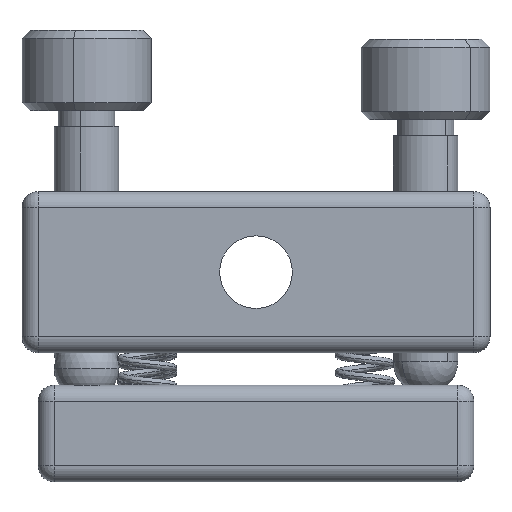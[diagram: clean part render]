
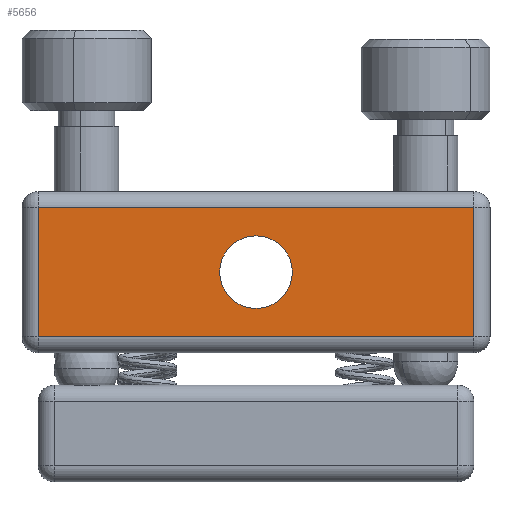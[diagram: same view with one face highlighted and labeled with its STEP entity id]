
A CAD part, left-side view. The second image highlights one B-rep face of the part: STEP entity #5656.
In plain terms, the highlighted planar face has unit normal (-1, 0, 0).
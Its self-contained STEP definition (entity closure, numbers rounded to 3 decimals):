
#582 = DIRECTION ( 'NONE',  ( 0., 0., -1. ) ) ;
#779 = EDGE_CURVE ( 'NONE', #4724, #1188, #14984, .T. ) ;
#788 = EDGE_CURVE ( 'NONE', #1188, #4724, #14994, .T. ) ;
#1188 = VERTEX_POINT ( 'NONE', #3594 ) ;
#1807 = CARTESIAN_POINT ( 'NONE',  ( -14.5, 13.5, 5. ) ) ;
#1866 = EDGE_CURVE ( 'NONE', #14797, #6517, #12348, .T. ) ;
#1872 = EDGE_LOOP ( 'NONE', ( #8200, #10709 ) ) ;
#2301 = DIRECTION ( 'NONE',  ( 0., -1., 0. ) ) ;
#2784 = EDGE_CURVE ( 'NONE', #10862, #14797, #9680, .T. ) ;
#3158 = CARTESIAN_POINT ( 'NONE',  ( -14.5, -14.5, 5. ) ) ;
#3594 = CARTESIAN_POINT ( 'NONE',  ( -14.5, 0., -2.25 ) ) ;
#4058 = LINE ( 'NONE', #9528, #4122 ) ;
#4121 = EDGE_CURVE ( 'NONE', #13574, #10862, #7057, .T. ) ;
#4122 = VECTOR ( 'NONE', #2301, 1000. ) ;
#4130 = ORIENTED_EDGE ( 'NONE', *, *, #1866, .T. ) ;
#4223 = FACE_BOUND ( 'NONE', #1872, .T. ) ;
#4235 = FACE_OUTER_BOUND ( 'NONE', #4680, .T. ) ;
#4680 = EDGE_LOOP ( 'NONE', ( #8998, #12045, #4130, #12216 ) ) ;
#4724 = VERTEX_POINT ( 'NONE', #12542 ) ;
#5239 = PLANE ( 'NONE',  #7557 ) ;
#5421 = DIRECTION ( 'NONE',  ( 1., 0., 0. ) ) ;
#5656 = ADVANCED_FACE ( 'NONE', ( #4223, #4235 ), #5239, .F. ) ;
#6081 = DIRECTION ( 'NONE',  ( 0., 0., -1. ) ) ;
#6181 = DIRECTION ( 'NONE',  ( 1., 0., 0. ) ) ;
#6247 = DIRECTION ( 'NONE',  ( 0., 0., -1. ) ) ;
#6517 = VERTEX_POINT ( 'NONE', #13110 ) ;
#7038 = VECTOR ( 'NONE', #9567, 1000. ) ;
#7057 = LINE ( 'NONE', #11161, #7038 ) ;
#7248 = CARTESIAN_POINT ( 'NONE',  ( -14.5, -14.5, 4. ) ) ;
#7494 = DIRECTION ( 'NONE',  ( 0., 1., 0. ) ) ;
#7557 = AXIS2_PLACEMENT_3D ( 'NONE', #3158, #5421, #6081 ) ;
#8200 = ORIENTED_EDGE ( 'NONE', *, *, #788, .T. ) ;
#8472 = DIRECTION ( 'NONE',  ( 0., 0., -1. ) ) ;
#8499 = DIRECTION ( 'NONE',  ( 1., 0., 0. ) ) ;
#8503 = CARTESIAN_POINT ( 'NONE',  ( -14.5, 0., 0. ) ) ;
#8961 = CARTESIAN_POINT ( 'NONE',  ( -14.5, -13.5, -4. ) ) ;
#8998 = ORIENTED_EDGE ( 'NONE', *, *, #4121, .T. ) ;
#9528 = CARTESIAN_POINT ( 'NONE',  ( -14.5, -13.5, -4. ) ) ;
#9567 = DIRECTION ( 'NONE',  ( 0., 0., 1. ) ) ;
#9654 = VECTOR ( 'NONE', #7494, 1000. ) ;
#9680 = LINE ( 'NONE', #7248, #9654 ) ;
#10709 = ORIENTED_EDGE ( 'NONE', *, *, #779, .T. ) ;
#10862 = VERTEX_POINT ( 'NONE', #14262 ) ;
#11161 = CARTESIAN_POINT ( 'NONE',  ( -14.5, -13.5, 5. ) ) ;
#11785 = CARTESIAN_POINT ( 'NONE',  ( -14.5, 0., 0. ) ) ;
#12045 = ORIENTED_EDGE ( 'NONE', *, *, #2784, .T. ) ;
#12166 = CARTESIAN_POINT ( 'NONE',  ( -14.5, 13.5, 4. ) ) ;
#12216 = ORIENTED_EDGE ( 'NONE', *, *, #12421, .T. ) ;
#12331 = VECTOR ( 'NONE', #582, 1000. ) ;
#12348 = LINE ( 'NONE', #1807, #12331 ) ;
#12421 = EDGE_CURVE ( 'NONE', #6517, #13574, #4058, .T. ) ;
#12542 = CARTESIAN_POINT ( 'NONE',  ( -14.5, 0., 2.25 ) ) ;
#13110 = CARTESIAN_POINT ( 'NONE',  ( -14.5, 13.5, -4. ) ) ;
#13574 = VERTEX_POINT ( 'NONE', #8961 ) ;
#14262 = CARTESIAN_POINT ( 'NONE',  ( -14.5, -13.5, 4. ) ) ;
#14713 = AXIS2_PLACEMENT_3D ( 'NONE', #11785, #6181, #6247 ) ;
#14764 = AXIS2_PLACEMENT_3D ( 'NONE', #8503, #8499, #8472 ) ;
#14797 = VERTEX_POINT ( 'NONE', #12166 ) ;
#14984 = CIRCLE ( 'NONE', #14764, 2.25 ) ;
#14994 = CIRCLE ( 'NONE', #14713, 2.25 ) ;
